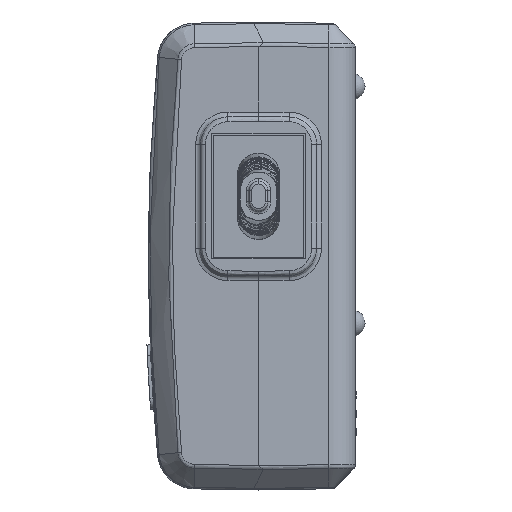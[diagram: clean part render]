
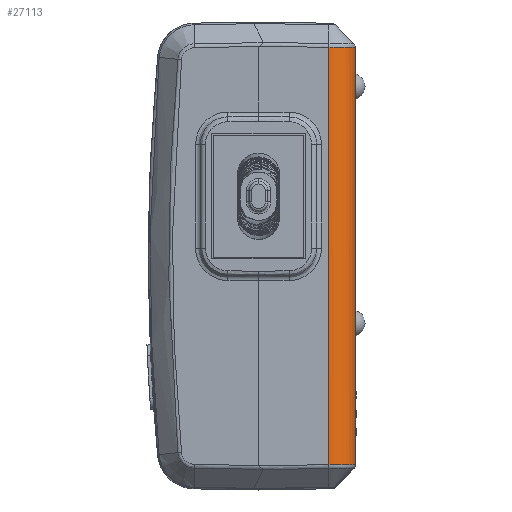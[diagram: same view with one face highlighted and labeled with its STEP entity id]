
A CAD part, left-side view. The second image highlights one B-rep face of the part: STEP entity #27113.
In plain terms, the highlighted cylindrical face has radius 5 mm (diameter 10 mm), a partial arc.
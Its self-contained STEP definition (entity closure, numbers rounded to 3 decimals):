
#2241 = AXIS2_PLACEMENT_3D ( 'NONE', #56307, #56303, #56304 ) ;
#8796 = LINE ( 'NONE', #79982, #8804 ) ;
#8804 = VECTOR ( 'NONE', #79983, 1000. ) ;
#9502 = LINE ( 'NONE', #36641, #9504 ) ;
#9504 = VECTOR ( 'NONE', #36642, 1000. ) ;
#11449 = CARTESIAN_POINT ( 'NONE',  ( -61.766, -13.413, -42.28 ) ) ;
#11451 = CARTESIAN_POINT ( 'NONE',  ( -61.728, -13.738, -42.28 ) ) ;
#11453 = CARTESIAN_POINT ( 'NONE',  ( -61.591, -14.374, -42.279 ) ) ;
#11455 = CARTESIAN_POINT ( 'NONE',  ( -61.491, -14.683, -42.278 ) ) ;
#11457 = CARTESIAN_POINT ( 'NONE',  ( -61.237, -15.273, -42.278 ) ) ;
#11459 = CARTESIAN_POINT ( 'NONE',  ( -61.081, -15.557, -42.277 ) ) ;
#11461 = CARTESIAN_POINT ( 'NONE',  ( -60.714, -16.094, -42.277 ) ) ;
#11463 = CARTESIAN_POINT ( 'NONE',  ( -60.505, -16.342, -42.275 ) ) ;
#11465 = CARTESIAN_POINT ( 'NONE',  ( -60.04, -16.798, -42.276 ) ) ;
#11467 = CARTESIAN_POINT ( 'NONE',  ( -59.789, -17., -42.275 ) ) ;
#11469 = CARTESIAN_POINT ( 'NONE',  ( -59.387, -17.265, -42.273 ) ) ;
#11471 = CARTESIAN_POINT ( 'NONE',  ( -59.248, -17.347, -42.273 ) ) ;
#11473 = CARTESIAN_POINT ( 'NONE',  ( -58.962, -17.498, -42.273 ) ) ;
#11475 = CARTESIAN_POINT ( 'NONE',  ( -58.813, -17.567, -42.274 ) ) ;
#11477 = CARTESIAN_POINT ( 'NONE',  ( -58.364, -17.751, -42.276 ) ) ;
#11479 = CARTESIAN_POINT ( 'NONE',  ( -58.056, -17.843, -42.276 ) ) ;
#11480 = CARTESIAN_POINT ( 'NONE',  ( -57.424, -17.968, -42.274 ) ) ;
#11482 = CARTESIAN_POINT ( 'NONE',  ( -57.098, -18., -42.272 ) ) ;
#11484 = CARTESIAN_POINT ( 'NONE',  ( -56.772, -18., -42.272 ) ) ;
#11569 = CARTESIAN_POINT ( 'NONE',  ( -56.772, -18., 35.272 ) ) ;
#11581 = CARTESIAN_POINT ( 'NONE',  ( -57.099, -18., 35.272 ) ) ;
#11583 = CARTESIAN_POINT ( 'NONE',  ( -57.424, -17.968, 35.274 ) ) ;
#11585 = CARTESIAN_POINT ( 'NONE',  ( -58.056, -17.843, 35.276 ) ) ;
#11587 = CARTESIAN_POINT ( 'NONE',  ( -58.364, -17.751, 35.276 ) ) ;
#11589 = CARTESIAN_POINT ( 'NONE',  ( -58.966, -17.505, 35.273 ) ) ;
#11591 = CARTESIAN_POINT ( 'NONE',  ( -59.253, -17.353, 35.272 ) ) ;
#11593 = CARTESIAN_POINT ( 'NONE',  ( -59.789, -17., 35.275 ) ) ;
#11595 = CARTESIAN_POINT ( 'NONE',  ( -60.04, -16.798, 35.276 ) ) ;
#11597 = CARTESIAN_POINT ( 'NONE',  ( -60.506, -16.341, 35.275 ) ) ;
#11599 = CARTESIAN_POINT ( 'NONE',  ( -60.713, -16.094, 35.277 ) ) ;
#11601 = CARTESIAN_POINT ( 'NONE',  ( -61.077, -15.564, 35.277 ) ) ;
#11603 = CARTESIAN_POINT ( 'NONE',  ( -61.235, -15.278, 35.278 ) ) ;
#11605 = CARTESIAN_POINT ( 'NONE',  ( -61.493, -14.68, 35.278 ) ) ;
#11606 = CARTESIAN_POINT ( 'NONE',  ( -61.592, -14.368, 35.279 ) ) ;
#11608 = CARTESIAN_POINT ( 'NONE',  ( -61.729, -13.735, 35.28 ) ) ;
#11610 = CARTESIAN_POINT ( 'NONE',  ( -61.766, -13.413, 35.28 ) ) ;
#11612 = CARTESIAN_POINT ( 'NONE',  ( -61.772, -13.087, 35.281 ) ) ;
#27113 = ADVANCED_FACE ( 'NONE', ( #59077 ), #59091, .T. ) ;
#36641 = CARTESIAN_POINT ( 'NONE',  ( -61.772, -13.087, 40. ) ) ;
#36642 = DIRECTION ( 'NONE',  ( 0., 0., 1. ) ) ;
#41749 = EDGE_LOOP ( 'NONE', ( #83575, #83577, #83579, #83581 ) ) ;
#45108 = B_SPLINE_CURVE_WITH_KNOTS ( 'NONE', 3,
 ( #80179, #11449, #11451, #11453, #11455, #11457, #11459, #11461, #11463, #11465, #11467, #11469, #11471, #11473, #11475, #11477, #11479, #11480, #11482, #11484 ),
 .UNSPECIFIED., .F., .F.,
 ( 4, 2, 2, 2, 2, 2, 2, 2, 2, 4 ),
 ( 0., 0.001, 0.002, 0.003, 0.004, 0.005, 0.005, 0.006, 0.007, 0.008 ),
 .UNSPECIFIED. ) ;
#45120 = B_SPLINE_CURVE_WITH_KNOTS ( 'NONE', 3,
 ( #11569, #11581, #11583, #11585, #11587, #11589, #11591, #11593, #11595, #11597, #11599, #11601, #11603, #11605, #11606, #11608, #11610, #11612 ),
 .UNSPECIFIED., .F., .F.,
 ( 4, 2, 2, 2, 2, 2, 2, 2, 4 ),
 ( 0., 0.001, 0.002, 0.003, 0.004, 0.005, 0.006, 0.007, 0.008 ),
 .UNSPECIFIED. ) ;
#56303 = DIRECTION ( 'NONE',  ( 0., 0., 1. ) ) ;
#56304 = DIRECTION ( 'NONE',  ( 1., 0., 0. ) ) ;
#56307 = CARTESIAN_POINT ( 'NONE',  ( -56.772, -13., 40. ) ) ;
#59077 = FACE_OUTER_BOUND ( 'NONE', #41749, .T. ) ;
#59091 = CYLINDRICAL_SURFACE ( 'NONE', #2241, 5. ) ;
#61148 = CARTESIAN_POINT ( 'NONE',  ( -61.772, -13.087, -42.281 ) ) ;
#61151 = CARTESIAN_POINT ( 'NONE',  ( -61.772, -13.087, 35.281 ) ) ;
#61188 = CARTESIAN_POINT ( 'NONE',  ( -56.772, -18., -42.272 ) ) ;
#62072 = CARTESIAN_POINT ( 'NONE',  ( -56.772, -18., 35.272 ) ) ;
#68940 = VERTEX_POINT ( 'NONE', #61148 ) ;
#68945 = VERTEX_POINT ( 'NONE', #61151 ) ;
#69011 = VERTEX_POINT ( 'NONE', #61188 ) ;
#69874 = VERTEX_POINT ( 'NONE', #62072 ) ;
#74799 = EDGE_CURVE ( 'NONE', #69874, #69011, #8796, .T. ) ;
#74836 = EDGE_CURVE ( 'NONE', #68940, #69011, #45108, .T. ) ;
#74841 = EDGE_CURVE ( 'NONE', #69874, #68945, #45120, .T. ) ;
#75272 = EDGE_CURVE ( 'NONE', #68940, #68945, #9502, .T. ) ;
#79982 = CARTESIAN_POINT ( 'NONE',  ( -56.772, -18., -47. ) ) ;
#79983 = DIRECTION ( 'NONE',  ( 0., 0., -1. ) ) ;
#80179 = CARTESIAN_POINT ( 'NONE',  ( -61.772, -13.087, -42.281 ) ) ;
#83575 = ORIENTED_EDGE ( 'NONE', *, *, #75272, .F. ) ;
#83577 = ORIENTED_EDGE ( 'NONE', *, *, #74836, .T. ) ;
#83579 = ORIENTED_EDGE ( 'NONE', *, *, #74799, .F. ) ;
#83581 = ORIENTED_EDGE ( 'NONE', *, *, #74841, .T. ) ;
